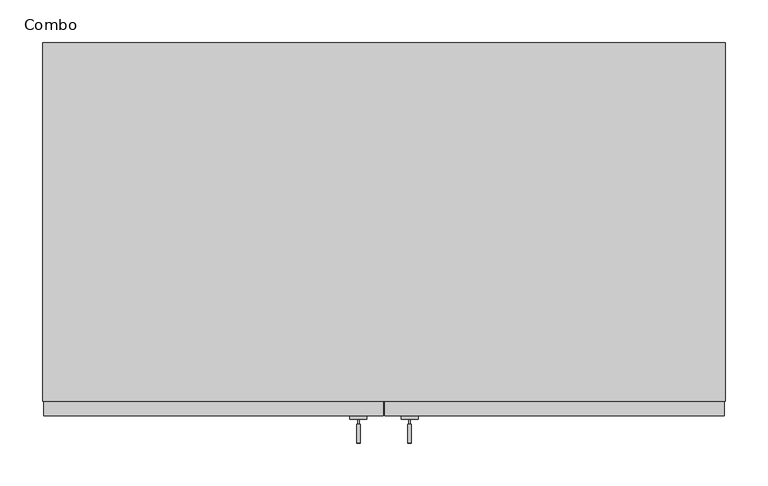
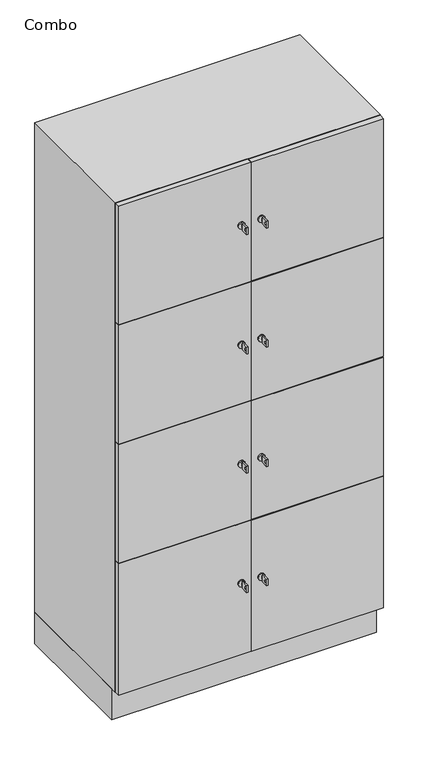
"""IFC4 building model written with IfcOpenShell, lengths in millimetres: furniture geometry, Combo : 584OOOO."""

from ifc_helpers import new_model, si_unit, point, frame, frame_2d, origin, origin_with_axes, place, context, project, spatial, polyline, circle_curve, trimmed, segment, composite_curve, outline, extrude, source, transform, mapped, element, save


def combo_e1c26738(model_context):
    return source(origin(), model_context, "Body", "SweptSolid", [
        extrude(outline(polyline([(-400.0, -400.0), (-400.0, 0.0), (400.0, 0.0), (400.0, -400.0), (-400.0, -400.0)])), origin_with_axes(), (0.0, 0.0, 1.0), 100.0),
        extrude(outline(composite_curve([segment(trimmed(circle_curve(frame_2d((330.0, -30.0)), 10.0), [point((330.0, -20.0))], [point((330.0, -40.0))], False, "CARTESIAN"), True, "CONTINUOUS"), segment(trimmed(circle_curve(frame_2d((330.0, -30.0)), 10.0), [point((330.0, -40.0))], [point((330.0, -20.0))], False, "CARTESIAN"), True, "CONTINUOUS")], self_intersect=False)), frame((0.0, -441.0, 0.0), z_axis=(0.0, 1.0, 0.0), x_axis=(0.0, 0.0, 1.0)), (0.0, 0.0, 1.0), 4.0),
        extrude(outline(polyline([(-469.0, 319.0), (-469.0, 340.985887), (-447.0, 340.985887), (-447.0, 319.0), (-469.0, 319.0)]), holes=[composite_curve([segment(trimmed(circle_curve(frame_2d((-462.75, 329.9929435)), 3.2230706), [point((-462.75, 333.2160141))], [point((-462.75, 326.7698729))], True, "CARTESIAN"), True, "CONTINUOUS"), segment(trimmed(circle_curve(frame_2d((-462.75, 329.9929435)), 3.2230706), [point((-462.75, 326.7698729))], [point((-462.75, 333.2160141))], True, "CARTESIAN"), True, "CONTINUOUS")], self_intersect=False)]), frame((-32.0416064, 0.0, 0.0), z_axis=(1.0, 0.0, 0.0), x_axis=(0.0, 1.0, 0.0)), (0.0, 0.0, 1.0), 4.0416064),
        extrude(outline(polyline([(-29.0, -447.0), (-31.0416064, -447.0), (-31.0416064, -441.0), (-29.0, -441.0), (-29.0, -447.0)])), frame((0.0, 0.0, 326.0), z_axis=(0.0, 0.0, 1.0), x_axis=(1.0, 0.0, 0.0)), (0.0, 0.0, 1.0), 7.985887),
        extrude(outline(composite_curve([segment(trimmed(circle_curve(frame_2d((1470.0, -30.0)), 10.0), [point((1470.0, -20.0))], [point((1470.0, -40.0))], False, "CARTESIAN"), True, "CONTINUOUS"), segment(trimmed(circle_curve(frame_2d((1470.0, -30.0)), 10.0), [point((1470.0, -40.0))], [point((1470.0, -20.0))], False, "CARTESIAN"), True, "CONTINUOUS")], self_intersect=False)), frame((0.0, -441.0, 0.0), z_axis=(0.0, 1.0, 0.0), x_axis=(0.0, 0.0, 1.0)), (0.0, 0.0, 1.0), 4.0),
        extrude(outline(polyline([(-469.0, 1481.0), (-447.0, 1481.0), (-447.0, 1459.014113), (-469.0, 1459.014113), (-469.0, 1481.0)]), holes=[composite_curve([segment(trimmed(circle_curve(frame_2d((-462.75, 1470.0070565)), 3.2230706), [point((-462.75, 1466.7839859))], [point((-462.75, 1473.2301271))], True, "CARTESIAN"), True, "CONTINUOUS"), segment(trimmed(circle_curve(frame_2d((-462.75, 1470.0070565)), 3.2230706), [point((-462.75, 1473.2301271))], [point((-462.75, 1466.7839859))], True, "CARTESIAN"), True, "CONTINUOUS")], self_intersect=False)]), frame((-32.0416064, 0.0, 0.0), z_axis=(1.0, 0.0, 0.0), x_axis=(0.0, 1.0, 0.0)), (0.0, 0.0, 1.0), 4.0416064),
        extrude(outline(polyline([(-31.0416064, -447.0), (-31.0416064, -441.0), (-29.0, -441.0), (-29.0, -447.0), (-31.0416064, -447.0)])), frame((0.0, 0.0, 1466.014113), z_axis=(0.0, 0.0, 1.0), x_axis=(1.0, 0.0, 0.0)), (0.0, 0.0, 1.0), 7.985887),
        extrude(outline(composite_curve([segment(trimmed(circle_curve(frame_2d((1470.0, 30.0)), 10.0), [point((1470.0, 20.0))], [point((1470.0, 40.0))], False, "CARTESIAN"), True, "CONTINUOUS"), segment(trimmed(circle_curve(frame_2d((1470.0, 30.0)), 10.0), [point((1470.0, 40.0))], [point((1470.0, 20.0))], False, "CARTESIAN"), True, "CONTINUOUS")], self_intersect=False)), frame((0.0, -441.0, 0.0), z_axis=(0.0, 1.0, 0.0), x_axis=(0.0, 0.0, 1.0)), (0.0, 0.0, 1.0), 4.0),
        extrude(outline(polyline([(-469.0, 1459.014113), (-469.0, 1481.0), (-447.0, 1481.0), (-447.0, 1459.014113), (-469.0, 1459.014113)]), holes=[composite_curve([segment(trimmed(circle_curve(frame_2d((-462.75, 1470.0070565)), 3.2230706), [point((-462.75, 1473.2301271))], [point((-462.75, 1466.7839859))], True, "CARTESIAN"), True, "CONTINUOUS"), segment(trimmed(circle_curve(frame_2d((-462.75, 1470.0070565)), 3.2230706), [point((-462.75, 1466.7839859))], [point((-462.75, 1473.2301271))], True, "CARTESIAN"), True, "CONTINUOUS")], self_intersect=False)]), frame((28.0, 0.0, 0.0), z_axis=(1.0, 0.0, 0.0), x_axis=(0.0, 1.0, 0.0)), (0.0, 0.0, 1.0), 4.0416064),
        extrude(outline(polyline([(31.0416064, -447.0), (29.0, -447.0), (29.0, -441.0), (31.0416064, -441.0), (31.0416064, -447.0)])), frame((0.0, 0.0, 1466.014113), z_axis=(0.0, 0.0, 1.0), x_axis=(1.0, 0.0, 0.0)), (0.0, 0.0, 1.0), 7.985887),
        extrude(outline(composite_curve([segment(trimmed(circle_curve(frame_2d((1090.0, -30.0)), 10.0), [point((1090.0, -20.0))], [point((1090.0, -40.0))], False, "CARTESIAN"), True, "CONTINUOUS"), segment(trimmed(circle_curve(frame_2d((1090.0, -30.0)), 10.0), [point((1090.0, -40.0))], [point((1090.0, -20.0))], False, "CARTESIAN"), True, "CONTINUOUS")], self_intersect=False)), frame((0.0, -441.0, 0.0), z_axis=(0.0, 1.0, 0.0), x_axis=(0.0, 0.0, 1.0)), (0.0, 0.0, 1.0), 4.0),
        extrude(outline(polyline([(-469.0, 1101.0), (-447.0, 1101.0), (-447.0, 1079.014113), (-469.0, 1079.014113), (-469.0, 1101.0)]), holes=[composite_curve([segment(trimmed(circle_curve(frame_2d((-462.75, 1090.0070565)), 3.2230706), [point((-462.75, 1086.7839859))], [point((-462.75, 1093.2301271))], True, "CARTESIAN"), True, "CONTINUOUS"), segment(trimmed(circle_curve(frame_2d((-462.75, 1090.0070565)), 3.2230706), [point((-462.75, 1093.2301271))], [point((-462.75, 1086.7839859))], True, "CARTESIAN"), True, "CONTINUOUS")], self_intersect=False)]), frame((-32.0416064, 0.0, 0.0), z_axis=(1.0, 0.0, 0.0), x_axis=(0.0, 1.0, 0.0)), (0.0, 0.0, 1.0), 4.0416064),
        extrude(outline(polyline([(-31.0416064, -447.0), (-31.0416064, -441.0), (-29.0, -441.0), (-29.0, -447.0), (-31.0416064, -447.0)])), frame((0.0, 0.0, 1086.014113), z_axis=(0.0, 0.0, 1.0), x_axis=(1.0, 0.0, 0.0)), (0.0, 0.0, 1.0), 7.985887),
        extrude(outline(composite_curve([segment(trimmed(circle_curve(frame_2d((1090.0, 30.0)), 10.0), [point((1090.0, 20.0))], [point((1090.0, 40.0))], False, "CARTESIAN"), True, "CONTINUOUS"), segment(trimmed(circle_curve(frame_2d((1090.0, 30.0)), 10.0), [point((1090.0, 40.0))], [point((1090.0, 20.0))], False, "CARTESIAN"), True, "CONTINUOUS")], self_intersect=False)), frame((0.0, -441.0, 0.0), z_axis=(0.0, 1.0, 0.0), x_axis=(0.0, 0.0, 1.0)), (0.0, 0.0, 1.0), 4.0),
        extrude(outline(polyline([(-469.0, 1079.014113), (-469.0, 1101.0), (-447.0, 1101.0), (-447.0, 1079.014113), (-469.0, 1079.014113)]), holes=[composite_curve([segment(trimmed(circle_curve(frame_2d((-462.75, 1090.0070565)), 3.2230706), [point((-462.75, 1093.2301271))], [point((-462.75, 1086.7839859))], True, "CARTESIAN"), True, "CONTINUOUS"), segment(trimmed(circle_curve(frame_2d((-462.75, 1090.0070565)), 3.2230706), [point((-462.75, 1086.7839859))], [point((-462.75, 1093.2301271))], True, "CARTESIAN"), True, "CONTINUOUS")], self_intersect=False)]), frame((28.0, 0.0, 0.0), z_axis=(1.0, 0.0, 0.0), x_axis=(0.0, 1.0, 0.0)), (0.0, 0.0, 1.0), 4.0416064),
        extrude(outline(polyline([(31.0416064, -447.0), (29.0, -447.0), (29.0, -441.0), (31.0416064, -441.0), (31.0416064, -447.0)])), frame((0.0, 0.0, 1086.014113), z_axis=(0.0, 0.0, 1.0), x_axis=(1.0, 0.0, 0.0)), (0.0, 0.0, 1.0), 7.985887),
        extrude(outline(composite_curve([segment(trimmed(circle_curve(frame_2d((710.0, -30.0)), 10.0), [point((710.0, -20.0))], [point((710.0, -40.0))], False, "CARTESIAN"), True, "CONTINUOUS"), segment(trimmed(circle_curve(frame_2d((710.0, -30.0)), 10.0), [point((710.0, -40.0))], [point((710.0, -20.0))], False, "CARTESIAN"), True, "CONTINUOUS")], self_intersect=False)), frame((0.0, -441.0, 0.0), z_axis=(0.0, 1.0, 0.0), x_axis=(0.0, 0.0, 1.0)), (0.0, 0.0, 1.0), 4.0),
        extrude(outline(polyline([(-469.0, 721.0), (-447.0, 721.0), (-447.0, 699.014113), (-469.0, 699.014113), (-469.0, 721.0)]), holes=[composite_curve([segment(trimmed(circle_curve(frame_2d((-462.75, 710.0070565)), 3.2230706), [point((-462.75, 706.7839859))], [point((-462.75, 713.2301271))], True, "CARTESIAN"), True, "CONTINUOUS"), segment(trimmed(circle_curve(frame_2d((-462.75, 710.0070565)), 3.2230706), [point((-462.75, 713.2301271))], [point((-462.75, 706.7839859))], True, "CARTESIAN"), True, "CONTINUOUS")], self_intersect=False)]), frame((-32.0416064, 0.0, 0.0), z_axis=(1.0, 0.0, 0.0), x_axis=(0.0, 1.0, 0.0)), (0.0, 0.0, 1.0), 4.0416064),
        extrude(outline(polyline([(-31.0416064, -447.0), (-31.0416064, -441.0), (-29.0, -441.0), (-29.0, -447.0), (-31.0416064, -447.0)])), frame((0.0, 0.0, 706.014113), z_axis=(0.0, 0.0, 1.0), x_axis=(1.0, 0.0, 0.0)), (0.0, 0.0, 1.0), 7.985887),
        extrude(outline(composite_curve([segment(trimmed(circle_curve(frame_2d((330.0, 30.0)), 10.0), [point((330.0, 20.0))], [point((330.0, 40.0))], False, "CARTESIAN"), True, "CONTINUOUS"), segment(trimmed(circle_curve(frame_2d((330.0, 30.0)), 10.0), [point((330.0, 40.0))], [point((330.0, 20.0))], False, "CARTESIAN"), True, "CONTINUOUS")], self_intersect=False)), frame((0.0, -441.0, 0.0), z_axis=(0.0, 1.0, 0.0), x_axis=(0.0, 0.0, 1.0)), (0.0, 0.0, 1.0), 4.0),
        extrude(outline(polyline([(-469.0, 340.985887), (-447.0, 340.985887), (-447.0, 319.0), (-469.0, 319.0), (-469.0, 340.985887)]), holes=[composite_curve([segment(trimmed(circle_curve(frame_2d((-462.75, 329.9929435)), 3.2230706), [point((-462.75, 326.7698729))], [point((-462.75, 333.2160141))], True, "CARTESIAN"), True, "CONTINUOUS"), segment(trimmed(circle_curve(frame_2d((-462.75, 329.9929435)), 3.2230706), [point((-462.75, 333.2160141))], [point((-462.75, 326.7698729))], True, "CARTESIAN"), True, "CONTINUOUS")], self_intersect=False)]), frame((28.0, 0.0, 0.0), z_axis=(1.0, 0.0, 0.0), x_axis=(0.0, 1.0, 0.0)), (0.0, 0.0, 1.0), 4.0416064),
        extrude(outline(polyline([(29.0, -447.0), (29.0, -441.0), (31.0416064, -441.0), (31.0416064, -447.0), (29.0, -447.0)])), frame((0.0, 0.0, 326.0), z_axis=(0.0, 0.0, 1.0), x_axis=(1.0, 0.0, 0.0)), (0.0, 0.0, 1.0), 7.985887),
        extrude(outline(composite_curve([segment(trimmed(circle_curve(frame_2d((710.0, 30.0)), 10.0), [point((710.0, 20.0))], [point((710.0, 40.0))], False, "CARTESIAN"), True, "CONTINUOUS"), segment(trimmed(circle_curve(frame_2d((710.0, 30.0)), 10.0), [point((710.0, 40.0))], [point((710.0, 20.0))], False, "CARTESIAN"), True, "CONTINUOUS")], self_intersect=False)), frame((0.0, -441.0, 0.0), z_axis=(0.0, 1.0, 0.0), x_axis=(0.0, 0.0, 1.0)), (0.0, 0.0, 1.0), 4.0),
        extrude(outline(polyline([(-469.0, 699.014113), (-469.0, 721.0), (-447.0, 721.0), (-447.0, 699.014113), (-469.0, 699.014113)]), holes=[composite_curve([segment(trimmed(circle_curve(frame_2d((-462.75, 710.0070565)), 3.2230706), [point((-462.75, 713.2301271))], [point((-462.75, 706.7839859))], True, "CARTESIAN"), True, "CONTINUOUS"), segment(trimmed(circle_curve(frame_2d((-462.75, 710.0070565)), 3.2230706), [point((-462.75, 706.7839859))], [point((-462.75, 713.2301271))], True, "CARTESIAN"), True, "CONTINUOUS")], self_intersect=False)]), frame((28.0, 0.0, 0.0), z_axis=(1.0, 0.0, 0.0), x_axis=(0.0, 1.0, 0.0)), (0.0, 0.0, 1.0), 4.0416064),
        extrude(outline(polyline([(31.0416064, -447.0), (29.0, -447.0), (29.0, -441.0), (31.0416064, -441.0), (31.0416064, -447.0)])), frame((0.0, 0.0, 706.014113), z_axis=(0.0, 0.0, 1.0), x_axis=(1.0, 0.0, 0.0)), (0.0, 0.0, 1.0), 7.985887),
        extrude(outline(polyline([(-1.0, -437.0), (-399.0, -437.0), (-399.0, -421.0), (-1.0, -421.0), (-1.0, -437.0)])), frame((0.0, 0.0, 1281.0), z_axis=(0.0, 0.0, 1.0), x_axis=(1.0, 0.0, 0.0)), (0.0, 0.0, 1.0), 378.0),
        extrude(outline(polyline([(399.0, -437.0), (1.0, -437.0), (1.0, -421.0), (399.0, -421.0), (399.0, -437.0)])), frame((0.0, 0.0, 1281.0), z_axis=(0.0, 0.0, 1.0), x_axis=(1.0, 0.0, 0.0)), (0.0, 0.0, 1.0), 378.0),
        extrude(outline(polyline([(-1.0, -437.0), (-399.0, -437.0), (-399.0, -421.0), (-1.0, -421.0), (-1.0, -437.0)])), frame((0.0, 0.0, 901.0), z_axis=(0.0, 0.0, 1.0), x_axis=(1.0, 0.0, 0.0)), (0.0, 0.0, 1.0), 378.0),
        extrude(outline(polyline([(399.0, -437.0), (1.0, -437.0), (1.0, -421.0), (399.0, -421.0), (399.0, -437.0)])), frame((0.0, 0.0, 901.0), z_axis=(0.0, 0.0, 1.0), x_axis=(1.0, 0.0, 0.0)), (0.0, 0.0, 1.0), 378.0),
        extrude(outline(polyline([(-1.0, -437.0), (-399.0, -437.0), (-399.0, -421.0), (-1.0, -421.0), (-1.0, -437.0)])), frame((0.0, 0.0, 521.0), z_axis=(0.0, 0.0, 1.0), x_axis=(1.0, 0.0, 0.0)), (0.0, 0.0, 1.0), 378.0),
        extrude(outline(polyline([(399.0, -437.0), (1.0, -437.0), (1.0, -421.0), (399.0, -421.0), (399.0, -437.0)])), frame((0.0, 0.0, 521.0), z_axis=(0.0, 0.0, 1.0), x_axis=(1.0, 0.0, 0.0)), (0.0, 0.0, 1.0), 378.0),
        extrude(outline(polyline([(-1.0, -437.0), (-399.0, -437.0), (-399.0, -421.0), (-1.0, -421.0), (-1.0, -437.0)])), frame((0.0, 0.0, 101.0), z_axis=(0.0, 0.0, 1.0), x_axis=(1.0, 0.0, 0.0)), (0.0, 0.0, 1.0), 418.0),
        extrude(outline(polyline([(399.0, -437.0), (1.0, -437.0), (1.0, -421.0), (399.0, -421.0), (399.0, -437.0)])), frame((0.0, 0.0, 101.0), z_axis=(0.0, 0.0, 1.0), x_axis=(1.0, 0.0, 0.0)), (0.0, 0.0, 1.0), 418.0),
        extrude(outline(polyline([(400.0, 0.0), (400.0, -420.0), (-400.0, -420.0), (-400.0, 0.0), (400.0, 0.0)])), frame((0.0, 0.0, 100.0), z_axis=(0.0, 0.0, 1.0), x_axis=(1.0, 0.0, 0.0)), (0.0, 0.0, 1.0), 1560.0),
    ])


if __name__ == "__main__":
    model = new_model("IFC4")
    model_context = context("Model", 3, world=origin())
    ifc_project = project(units=[si_unit("LENGTHUNIT", "METRE", prefix="MILLI")], contexts=[model_context])
    site = spatial("IfcSite", under=ifc_project)
    building = spatial("IfcBuilding", under=site)
    placement = place(None, origin())
    combo_shape = combo_e1c26738(model_context)
    element("IfcFurniture", 1, ObjectType="Combo : 584OOOO", at=placement, inside=building, context=model_context, shape_type="MappedRepresentation", body=[
        mapped(combo_shape, transform((0.0, 0.0, 0.0), x_axis=(1.0, 0.0, 0.0), y_axis=(0.0, 1.0, 0.0), z_axis=(0.0, 0.0, 1.0))),
    ])
    save(model, "model.ifc")
